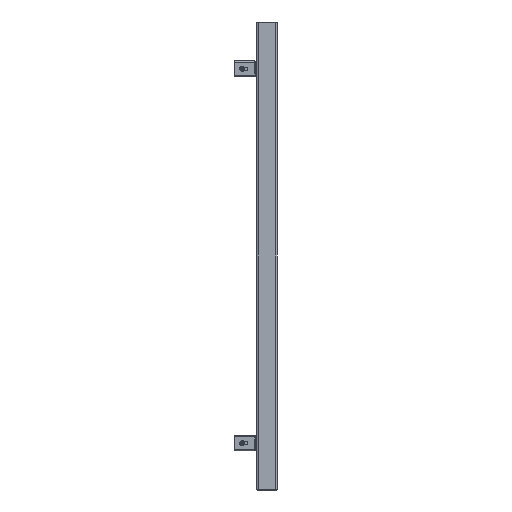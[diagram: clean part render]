
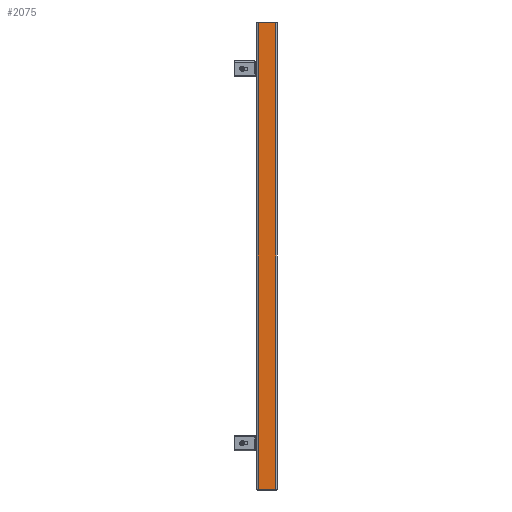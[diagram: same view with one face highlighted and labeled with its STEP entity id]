
A CAD part, left-side view. The second image highlights one B-rep face of the part: STEP entity #2075.
In plain terms, the highlighted planar face has unit normal (-1, 0, 0).
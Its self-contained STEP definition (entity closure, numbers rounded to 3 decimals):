
#1726=CARTESIAN_POINT('',(-240.0,-17.,1.5));
#1727=VERTEX_POINT('',#1726);
#1878=CARTESIAN_POINT('',(-240.0,17.,1.5));
#1879=VERTEX_POINT('',#1878);
#1896=CARTESIAN_POINT('',(-240.0,-17.,1.5));
#1897=DIRECTION('',(0.0,1.0,0.0));
#1898=VECTOR('',#1897,34.0);
#1899=LINE('',#1896,#1898);
#1900=EDGE_CURVE('',#1727,#1879,#1899,.T.);
#2045=CARTESIAN_POINT('',(-240.0,-17.,0.0));
#2046=DIRECTION('',(-1.0,0.0,0.0));
#2047=DIRECTION('',(0.0,0.0,1.0));
#2048=AXIS2_PLACEMENT_3D('',#2045,#2046,#2047);
#2049=PLANE('',#2048);
#2050=ORIENTED_EDGE('',*,*,#1900,.F.);
#2051=CARTESIAN_POINT('',(-240.0,-17.,898.5));
#2052=VERTEX_POINT('',#2051);
#2053=CARTESIAN_POINT('',(-240.0,-17.,1.5));
#2054=DIRECTION('',(0.0,0.0,1.0));
#2055=VECTOR('',#2054,897.0);
#2056=LINE('',#2053,#2055);
#2057=EDGE_CURVE('',#1727,#2052,#2056,.T.);
#2058=ORIENTED_EDGE('',*,*,#2057,.T.);
#2059=CARTESIAN_POINT('',(-240.0,17.,898.5));
#2060=VERTEX_POINT('',#2059);
#2061=CARTESIAN_POINT('',(-240.0,17.,898.5));
#2062=DIRECTION('',(0.0,-1.0,0.0));
#2063=VECTOR('',#2062,34.0);
#2064=LINE('',#2061,#2063);
#2065=EDGE_CURVE('',#2060,#2052,#2064,.T.);
#2066=ORIENTED_EDGE('',*,*,#2065,.F.);
#2067=CARTESIAN_POINT('',(-240.0,17.,1.5));
#2068=DIRECTION('',(0.0,0.0,1.0));
#2069=VECTOR('',#2068,897.0);
#2070=LINE('',#2067,#2069);
#2071=EDGE_CURVE('',#1879,#2060,#2070,.T.);
#2072=ORIENTED_EDGE('',*,*,#2071,.F.);
#2073=EDGE_LOOP('',(#2050,#2058,#2066,#2072));
#2074=FACE_OUTER_BOUND('',#2073,.T.);
#2075=ADVANCED_FACE('',(#2074),#2049,.T.);
